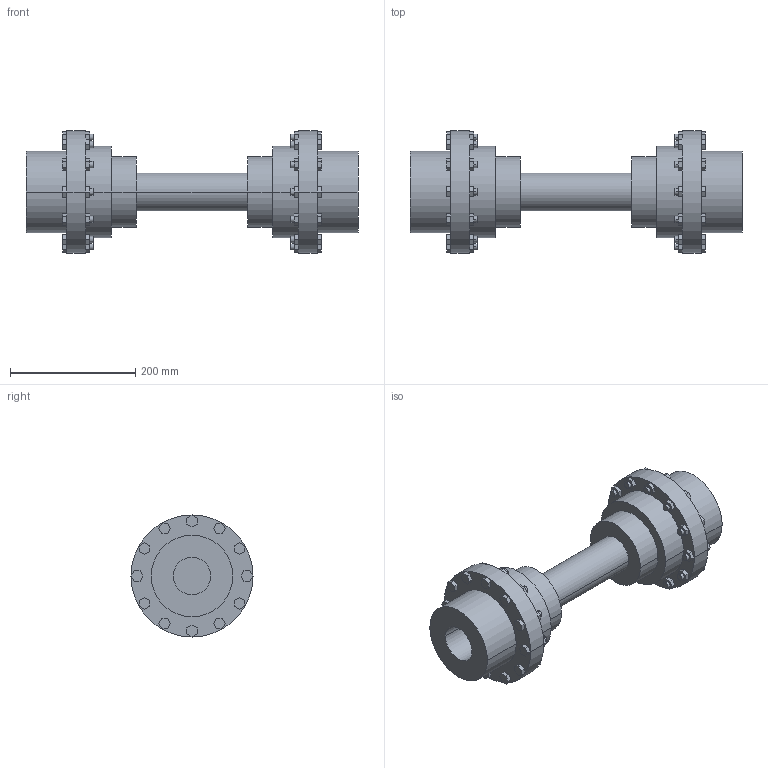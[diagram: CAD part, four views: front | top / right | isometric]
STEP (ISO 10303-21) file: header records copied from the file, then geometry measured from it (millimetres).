
FILE_DESCRIPTION((''),'2;1');
FILE_NAME('A19074200-0_ASM','2018-11-28T',('AB_Roschiwal'),('RENK AG'),'PRO/ENGINEER BY PARAMETRIC TECHNOLOGY CORPORATION, 2015440','PRO/ENGINEER BY PARAMETRIC TECHNOLOGY CORPORATION, 2015440','');
FILE_SCHEMA(('CONFIG_CONTROL_DESIGN'));
Length unit declared in the file: millimetre
Products named in the file (4): LBGK70_GEHAEUSE; LBGK70_NABE; LBGK70_WELLE; A19074200-0_ASM
Assembly tree (5 placements, depth 2):
  A19074200-0_ASM
    LBGK70_GEHAEUSE  x2
    LBGK70_NABE  x2
    LBGK70_WELLE
Bounding box: 530 x 195 x 195 mm (x, y, z)
Volume: 5782593.4 mm3; surface area: 574881.8 mm2
Topology: 5 solids, 5 shells, 484 faces, 1158 edges, 772 vertices
Faces by surface type: plane 386, cylinder 98
Entity records: 7138 total; most frequent: CARTESIAN_POINT 1223, DIRECTION 1188, ORIENTED_EDGE 1164, EDGE_CURVE 582, VECTOR 482, LINE 482, VERTEX_POINT 388, AXIS2_PLACEMENT_3D 353
